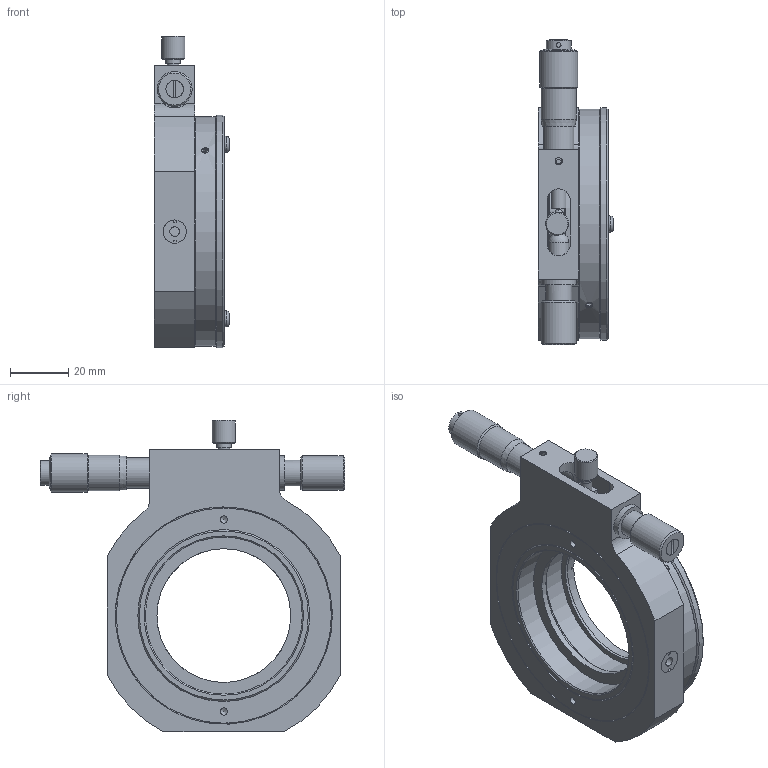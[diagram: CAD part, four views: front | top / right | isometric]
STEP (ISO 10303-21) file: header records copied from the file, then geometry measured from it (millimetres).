
FILE_DESCRIPTION(/* description */ (''),/* implementation_level */ '2;1');
FILE_NAME(/* name */ 'Y:\3DDATA\2_OpticalHard\01_国内製品\2_Holders\SPH\SPH-50-ARS-UU\SPH-50-ARS-UU.stp',/* time_stamp */ '2014-08-11T09:44:11+09:00',/* author */ ('m.kadoya'),/* organization */ (''),/* preprocessor_version */ 'ST-DEVELOPER v15.2',/* originating_system */ 'Autodesk Inventor 2014',/* authorisation */ '');
FILE_SCHEMA (('AUTOMOTIVE_DESIGN { 1 0 10303 214 3 1 1 }'));
Length unit declared in the file: millimetre
Products named in the file (1): SPH50ARS-UU-M02-10001-T01_Shrinkwrap_1
Bounding box: 25.91 x 104.87 x 107.2 mm (x, y, z)
Surface area: 37700.9 mm2 (no closed solid volume)
Topology: 0 solids, 36 shells, 154 faces, 464 edges, 321 vertices
Faces by surface type: plane 66, cylinder 65, cone 16, sphere 5, torus 2
Full cylindrical faces by diameter (mm): 1.6 x1, 2.5 x2, 3 x2, 3.302 x2, 3.95 x1, 4 x1, 5 x2, 7 x1, 8 x3, 8.5 x1, 8.917 x1, 9 x1, 9.5 x1, 10.5 x1, 12 x2, 12.1 x1, 13.1 x1, 46 x3, 50 x1, 50.2 x1, 54 x1, 59.1 x1, 64 x1, 69.6 x1, 74 x1, 74.7 x1, 79 x1, 80 x1
Entity records: 5089 total; most frequent: CARTESIAN_POINT 1152, DIRECTION 868, ORIENTED_EDGE 582, EDGE_CURVE 387, AXIS2_PLACEMENT_3D 352, VERTEX_POINT 306, EDGE_LOOP 250, CIRCLE 197
